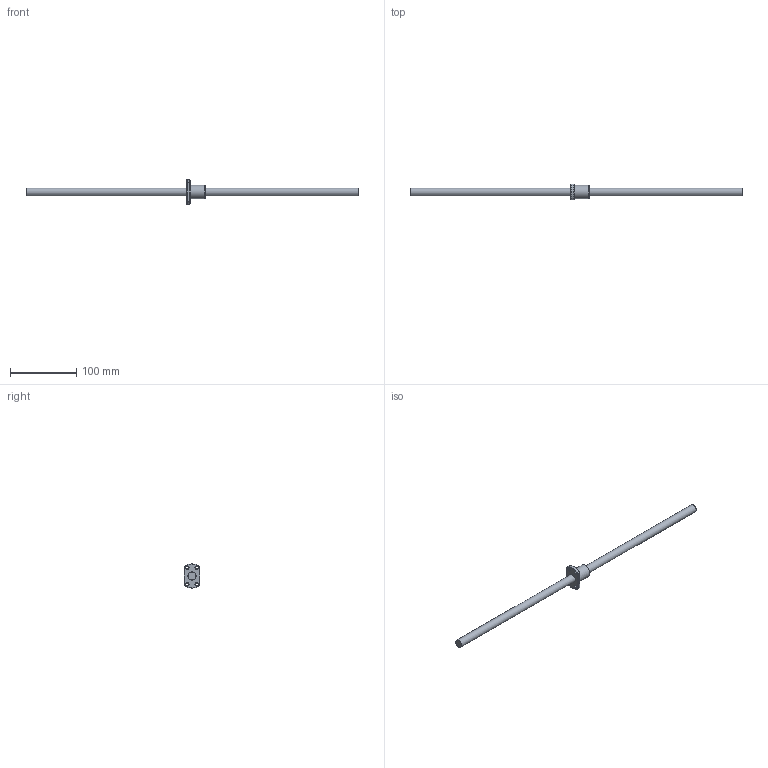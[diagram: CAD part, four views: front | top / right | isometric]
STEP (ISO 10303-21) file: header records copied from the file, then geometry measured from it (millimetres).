
FILE_DESCRIPTION (( 'STEP AP203' ), '1' );
FILE_NAME ('SFK01202.step', '2024-05-30T08:11:00', ( '' ), ( '' ), 'SwSTEP 2.0', 'SolidWorks 2022', '' );
FILE_SCHEMA (( 'CONFIG_CONTROL_DESIGN' ));
Length unit declared in the file: millimetre
Products named in the file (1): SFK01202
Bounding box: 500 x 24 x 36.89 mm (x, y, z)
Volume: 63976.4 mm3; surface area: 23625.1 mm2
Topology: 2 solids, 2 shells, 33 faces, 79 edges, 51 vertices
Faces by surface type: plane 11, cylinder 9, cone 8, torus 5
Full cylindrical faces by diameter (mm): 4.5 x4, 12 x1, 12.7 x1, 20 x1
Entity records: 935 total; most frequent: CARTESIAN_POINT 204, DIRECTION 142, ORIENTED_EDGE 102, AXIS2_PLACEMENT_3D 65, EDGE_LOOP 60, EDGE_CURVE 51, FACE_OUTER_BOUND 41, VERTEX_POINT 39
